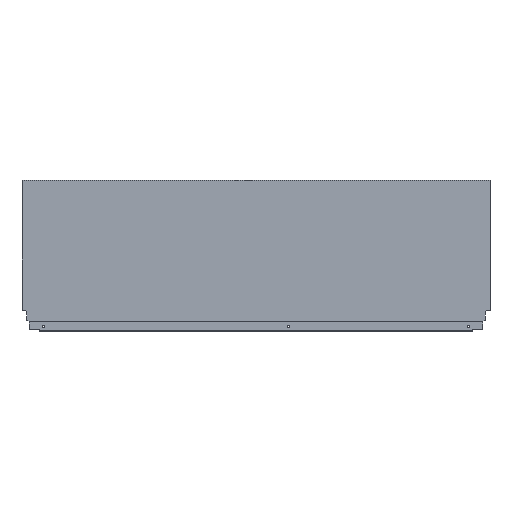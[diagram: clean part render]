
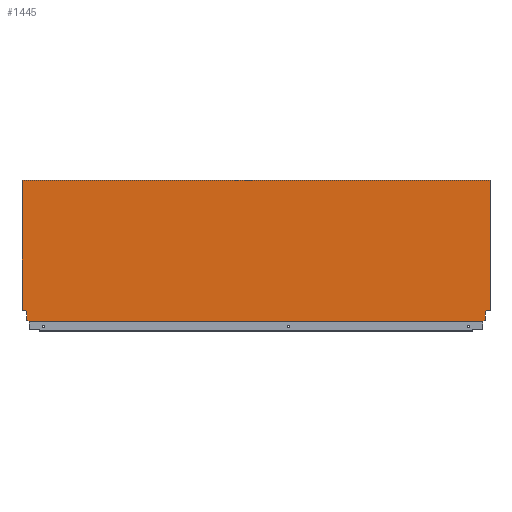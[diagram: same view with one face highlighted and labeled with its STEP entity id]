
A CAD part, top view. The second image highlights one B-rep face of the part: STEP entity #1445.
In plain terms, the highlighted planar face has unit normal (0, 0, 1).
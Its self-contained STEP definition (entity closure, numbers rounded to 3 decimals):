
#14 = LINE ( 'NONE', #769, #24 ) ;
#23 = LINE ( 'NONE', #765, #28 ) ;
#24 = VECTOR ( 'NONE', #766, 1000. ) ;
#25 = LINE ( 'NONE', #763, #30 ) ;
#28 = VECTOR ( 'NONE', #762, 1000. ) ;
#29 = LINE ( 'NONE', #759, #34 ) ;
#30 = VECTOR ( 'NONE', #760, 1000. ) ;
#31 = LINE ( 'NONE', #757, #36 ) ;
#33 = LINE ( 'NONE', #754, #38 ) ;
#34 = VECTOR ( 'NONE', #755, 1000. ) ;
#36 = VECTOR ( 'NONE', #1443, 1000. ) ;
#38 = VECTOR ( 'NONE', #756, 1000. ) ;
#42 = LINE ( 'NONE', #1412, #43 ) ;
#43 = VECTOR ( 'NONE', #1408, 1000. ) ;
#121 = VECTOR ( 'NONE', #1362, 1000. ) ;
#123 = LINE ( 'NONE', #1363, #121 ) ;
#130 = LINE ( 'NONE', #1358, #131 ) ;
#131 = VECTOR ( 'NONE', #1356, 1000. ) ;
#140 = LINE ( 'NONE', #1344, #141 ) ;
#141 = VECTOR ( 'NONE', #1343, 1000. ) ;
#179 = LINE ( 'NONE', #403, #182 ) ;
#182 = VECTOR ( 'NONE', #397, 1000. ) ;
#184 = LINE ( 'NONE', #318, #185 ) ;
#185 = VECTOR ( 'NONE', #389, 1000. ) ;
#189 = LINE ( 'NONE', #398, #190 ) ;
#190 = VECTOR ( 'NONE', #396, 1000. ) ;
#235 = LINE ( 'NONE', #350, #236 ) ;
#236 = VECTOR ( 'NONE', #348, 1000. ) ;
#270 = FACE_OUTER_BOUND ( 'NONE', #1304, .T. ) ;
#318 = CARTESIAN_POINT ( 'NONE',  ( -849.996, 1.146, 8. ) ) ;
#348 = DIRECTION ( 'NONE',  ( 0., -1., 0. ) ) ;
#350 = CARTESIAN_POINT ( 'NONE',  ( -863., 0., 8. ) ) ;
#389 = DIRECTION ( 'NONE',  ( 0., 1., 0. ) ) ;
#396 = DIRECTION ( 'NONE',  ( 0., -1., 0. ) ) ;
#397 = DIRECTION ( 'NONE',  ( -0.174, -0.985, 0. ) ) ;
#398 = CARTESIAN_POINT ( 'NONE',  ( -8.9, 10.765, 8. ) ) ;
#403 = CARTESIAN_POINT ( 'NONE',  ( -7.06, 21.2, 8. ) ) ;
#423 = DIRECTION ( 'NONE',  ( 1., 0., 0. ) ) ;
#424 = DIRECTION ( 'NONE',  ( 0., 0., 1. ) ) ;
#508 = PLANE ( 'NONE',  #643 ) ;
#509 = CARTESIAN_POINT ( 'NONE',  ( -863., 0., 8. ) ) ;
#512 = CARTESIAN_POINT ( 'NONE',  ( 0., 260.7, 8. ) ) ;
#513 = CARTESIAN_POINT ( 'NONE',  ( -854.1, 2.64, 8. ) ) ;
#524 = CARTESIAN_POINT ( 'NONE',  ( -854.1, 10.765, 8. ) ) ;
#526 = CARTESIAN_POINT ( 'NONE',  ( -13.004, 1.146, 8. ) ) ;
#535 = CARTESIAN_POINT ( 'NONE',  ( -7.06, 21.2, 8. ) ) ;
#548 = EDGE_CURVE ( 'NONE', #1039, #1037, #14, .T. ) ;
#550 = EDGE_CURVE ( 'NONE', #808, #837, #23, .T. ) ;
#551 = EDGE_CURVE ( 'NONE', #813, #1039, #25, .T. ) ;
#553 = EDGE_CURVE ( 'NONE', #1037, #808, #29, .T. ) ;
#554 = EDGE_CURVE ( 'NONE', #810, #1023, #31, .T. ) ;
#555 = EDGE_CURVE ( 'NONE', #1023, #800, #33, .T. ) ;
#557 = EDGE_CURVE ( 'NONE', #812, #1038, #42, .T. ) ;
#600 = EDGE_CURVE ( 'NONE', #828, #801, #123, .T. ) ;
#602 = EDGE_CURVE ( 'NONE', #1038, #801, #130, .T. ) ;
#607 = EDGE_CURVE ( 'NONE', #800, #1025, #140, .T. ) ;
#643 = AXIS2_PLACEMENT_3D ( 'NONE', #509, #424, #423 ) ;
#674 = EDGE_CURVE ( 'NONE', #828, #813, #184, .T. ) ;
#676 = EDGE_CURVE ( 'NONE', #1025, #804, #179, .T. ) ;
#677 = EDGE_CURVE ( 'NONE', #804, #812, #189, .T. ) ;
#702 = EDGE_CURVE ( 'NONE', #810, #837, #235, .T. ) ;
#754 = CARTESIAN_POINT ( 'NONE',  ( 0., 0., 8. ) ) ;
#755 = DIRECTION ( 'NONE',  ( -0.174, 0.985, 0. ) ) ;
#756 = DIRECTION ( 'NONE',  ( 0., -1., 0. ) ) ;
#757 = CARTESIAN_POINT ( 'NONE',  ( -863., 260.7, 8. ) ) ;
#759 = CARTESIAN_POINT ( 'NONE',  ( -855.94, 21.2, 8. ) ) ;
#760 = DIRECTION ( 'NONE',  ( -0.94, 0.342, 0. ) ) ;
#762 = DIRECTION ( 'NONE',  ( -1., 0., 0. ) ) ;
#763 = CARTESIAN_POINT ( 'NONE',  ( -854.1, 2.64, 8. ) ) ;
#765 = CARTESIAN_POINT ( 'NONE',  ( -868., 21.2, 8. ) ) ;
#766 = DIRECTION ( 'NONE',  ( 0., 1., 0. ) ) ;
#769 = CARTESIAN_POINT ( 'NONE',  ( -854.1, 10.765, 8. ) ) ;
#800 = VERTEX_POINT ( 'NONE', #1129 ) ;
#801 = VERTEX_POINT ( 'NONE', #1259 ) ;
#804 = VERTEX_POINT ( 'NONE', #1190 ) ;
#808 = VERTEX_POINT ( 'NONE', #1107 ) ;
#810 = VERTEX_POINT ( 'NONE', #1109 ) ;
#812 = VERTEX_POINT ( 'NONE', #1105 ) ;
#813 = VERTEX_POINT ( 'NONE', #1117 ) ;
#828 = VERTEX_POINT ( 'NONE', #1181 ) ;
#837 = VERTEX_POINT ( 'NONE', #1083 ) ;
#1023 = VERTEX_POINT ( 'NONE', #512 ) ;
#1025 = VERTEX_POINT ( 'NONE', #535 ) ;
#1037 = VERTEX_POINT ( 'NONE', #524 ) ;
#1038 = VERTEX_POINT ( 'NONE', #526 ) ;
#1039 = VERTEX_POINT ( 'NONE', #513 ) ;
#1083 = CARTESIAN_POINT ( 'NONE',  ( -863., 21.2, 8. ) ) ;
#1105 = CARTESIAN_POINT ( 'NONE',  ( -8.9, 2.64, 8. ) ) ;
#1107 = CARTESIAN_POINT ( 'NONE',  ( -855.94, 21.2, 8. ) ) ;
#1109 = CARTESIAN_POINT ( 'NONE',  ( -863., 260.7, 8. ) ) ;
#1117 = CARTESIAN_POINT ( 'NONE',  ( -849.996, 1.146, 8. ) ) ;
#1129 = CARTESIAN_POINT ( 'NONE',  ( 0., 21.2, 8. ) ) ;
#1179 = ORIENTED_EDGE ( 'NONE', *, *, #553, .F. ) ;
#1180 = ORIENTED_EDGE ( 'NONE', *, *, #548, .F. ) ;
#1181 = CARTESIAN_POINT ( 'NONE',  ( -849.996, 0., 8. ) ) ;
#1190 = CARTESIAN_POINT ( 'NONE',  ( -8.9, 10.765, 8. ) ) ;
#1194 = ORIENTED_EDGE ( 'NONE', *, *, #600, .T. ) ;
#1208 = ORIENTED_EDGE ( 'NONE', *, *, #550, .F. ) ;
#1230 = ORIENTED_EDGE ( 'NONE', *, *, #602, .F. ) ;
#1245 = ORIENTED_EDGE ( 'NONE', *, *, #702, .T. ) ;
#1253 = ORIENTED_EDGE ( 'NONE', *, *, #674, .F. ) ;
#1259 = CARTESIAN_POINT ( 'NONE',  ( -13.004, 0., 8. ) ) ;
#1272 = ORIENTED_EDGE ( 'NONE', *, *, #551, .F. ) ;
#1279 = ORIENTED_EDGE ( 'NONE', *, *, #554, .F. ) ;
#1281 = ORIENTED_EDGE ( 'NONE', *, *, #607, .F. ) ;
#1285 = ORIENTED_EDGE ( 'NONE', *, *, #555, .F. ) ;
#1288 = ORIENTED_EDGE ( 'NONE', *, *, #557, .F. ) ;
#1304 = EDGE_LOOP ( 'NONE', ( #1245, #1208, #1179, #1180, #1272, #1253, #1194, #1230, #1288, #1309, #1310, #1281, #1285, #1279 ) ) ;
#1309 = ORIENTED_EDGE ( 'NONE', *, *, #677, .F. ) ;
#1310 = ORIENTED_EDGE ( 'NONE', *, *, #676, .F. ) ;
#1343 = DIRECTION ( 'NONE',  ( -1., 0., 0. ) ) ;
#1344 = CARTESIAN_POINT ( 'NONE',  ( 0., 21.2, 8. ) ) ;
#1356 = DIRECTION ( 'NONE',  ( 0., -1., 0. ) ) ;
#1358 = CARTESIAN_POINT ( 'NONE',  ( -13.004, 1.146, 8. ) ) ;
#1362 = DIRECTION ( 'NONE',  ( 1., 0., 0. ) ) ;
#1363 = CARTESIAN_POINT ( 'NONE',  ( -863., 0., 8. ) ) ;
#1408 = DIRECTION ( 'NONE',  ( -0.94, -0.342, 0. ) ) ;
#1412 = CARTESIAN_POINT ( 'NONE',  ( -8.9, 2.64, 8. ) ) ;
#1443 = DIRECTION ( 'NONE',  ( 1., 0., 0. ) ) ;
#1445 = ADVANCED_FACE ( 'NONE', ( #270 ), #508, .T. ) ;
